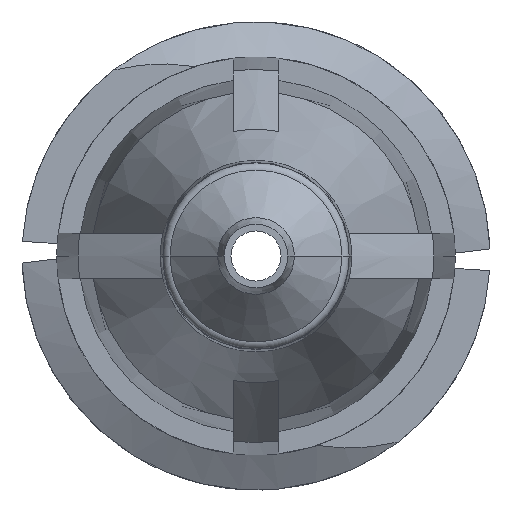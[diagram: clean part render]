
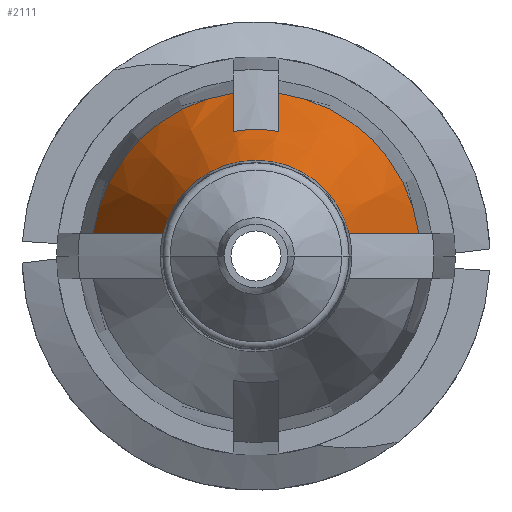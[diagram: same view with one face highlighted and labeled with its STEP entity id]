
A CAD part, front view. The second image highlights one B-rep face of the part: STEP entity #2111.
In plain terms, the highlighted conical face has half-angle 20 degrees and reference radius 2.745 mm.
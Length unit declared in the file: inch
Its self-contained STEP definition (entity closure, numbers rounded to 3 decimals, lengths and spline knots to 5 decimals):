
#172 = VERTEX_POINT ( 'NONE', #2964 ) ;
#186 = DIRECTION ( 'NONE',  ( 0., 1., 0. ) ) ;
#272 = EDGE_CURVE ( 'NONE', #1015, #3193, #1678, .T. ) ;
#331 = VERTEX_POINT ( 'NONE', #2307 ) ;
#337 = EDGE_CURVE ( 'NONE', #1781, #1015, #1165, .T. ) ;
#340 = CARTESIAN_POINT ( 'NONE',  ( 0.015, -0.406, 0.10703 ) ) ;
#375 = ORIENTED_EDGE ( 'NONE', *, *, #1803, .F. ) ;
#445 = DIRECTION ( 'NONE',  ( -1., 0., 0. ) ) ;
#455 = AXIS2_PLACEMENT_3D ( 'NONE', #991, #1215, #2494 ) ;
#458 = ORIENTED_EDGE ( 'NONE', *, *, #1011, .F. ) ;
#476 = CARTESIAN_POINT ( 'NONE',  ( -0.06119, -0.52985, 0.015 ) ) ;
#629 = AXIS2_PLACEMENT_3D ( 'NONE', #3076, #186, #744 ) ;
#643 = CARTESIAN_POINT ( 'NONE',  ( -0.10703, -0.406, 0.015 ) ) ;
#660 = CARTESIAN_POINT ( 'NONE',  ( -0.015, -0.47395, 0.08198 ) ) ;
#741 = EDGE_CURVE ( 'NONE', #1088, #2540, #1567, .T. ) ;
#744 = DIRECTION ( 'NONE',  ( -1., 0., 0. ) ) ;
#759 = DIRECTION ( 'NONE',  ( 0., 1., 0. ) ) ;
#856 = CIRCLE ( 'NONE', #2718, 0.10808 ) ;
#924 = CARTESIAN_POINT ( 'NONE',  ( 0.10703, -0.406, 0.015 ) ) ;
#942 = CARTESIAN_POINT ( 'NONE',  ( -0.015, -0.45131, 0.09036 ) ) ;
#991 = CARTESIAN_POINT ( 'NONE',  ( 0., -0.47395, 0. ) ) ;
#1011 = EDGE_CURVE ( 'NONE', #1088, #331, #1493, .T. ) ;
#1015 = VERTEX_POINT ( 'NONE', #660 ) ;
#1088 = VERTEX_POINT ( 'NONE', #2296 ) ;
#1165 = B_SPLINE_CURVE_WITH_KNOTS ( 'NONE', 3,
 ( #3016, #3338, #942, #1993 ),
 .UNSPECIFIED., .F., .F.,
 ( 4, 4 ),
 ( 0.00343, 0.00527 ),
 .UNSPECIFIED. ) ;
#1215 = DIRECTION ( 'NONE',  ( 0., 1., 0. ) ) ;
#1341 = EDGE_LOOP ( 'NONE', ( #458, #3000, #3230, #2036, #1959, #1874, #1642, #375 ) ) ;
#1369 = CARTESIAN_POINT ( 'NONE',  ( 0.015, -0.47395, 0.08198 ) ) ;
#1381 = EDGE_CURVE ( 'NONE', #2540, #2858, #1658, .T. ) ;
#1487 = DIRECTION ( 'NONE',  ( 0., 1., 0. ) ) ;
#1493 = B_SPLINE_CURVE_WITH_KNOTS ( 'NONE', 3,
 ( #476, #2313, #2034, #643 ),
 .UNSPECIFIED., .F., .F.,
 ( 4, 4 ),
 ( 0.00282, 0.00617 ),
 .UNSPECIFIED. ) ;
#1567 = CIRCLE ( 'NONE', #629, 0.063 ) ;
#1642 = ORIENTED_EDGE ( 'NONE', *, *, #337, .F. ) ;
#1658 = B_SPLINE_CURVE_WITH_KNOTS ( 'NONE', 3,
 ( #2130, #2384, #1808, #3405 ),
 .UNSPECIFIED., .F., .F.,
 ( 4, 4 ),
 ( 0.00282, 0.00617 ),
 .UNSPECIFIED. ) ;
#1678 = CIRCLE ( 'NONE', #455, 0.08335 ) ;
#1781 = VERTEX_POINT ( 'NONE', #1849 ) ;
#1802 = DIRECTION ( 'NONE',  ( -1., 0., 0. ) ) ;
#1803 = EDGE_CURVE ( 'NONE', #331, #1781, #856, .T. ) ;
#1808 = CARTESIAN_POINT ( 'NONE',  ( 0.09185, -0.44732, 0.015 ) ) ;
#1816 = DIRECTION ( 'NONE',  ( -1., 0., 0. ) ) ;
#1849 = CARTESIAN_POINT ( 'NONE',  ( -0.015, -0.406, 0.10703 ) ) ;
#1874 = ORIENTED_EDGE ( 'NONE', *, *, #272, .F. ) ;
#1930 = B_SPLINE_CURVE_WITH_KNOTS ( 'NONE', 3,
 ( #2956, #3022, #2988, #340 ),
 .UNSPECIFIED., .F., .F.,
 ( 4, 4 ),
 ( 0.00247, 0.00431 ),
 .UNSPECIFIED. ) ;
#1938 = CARTESIAN_POINT ( 'NONE',  ( 0.06119, -0.52985, 0.015 ) ) ;
#1959 = ORIENTED_EDGE ( 'NONE', *, *, #3321, .F. ) ;
#1993 = CARTESIAN_POINT ( 'NONE',  ( -0.015, -0.47395, 0.08198 ) ) ;
#2000 = CARTESIAN_POINT ( 'NONE',  ( 0., -0.406, 0. ) ) ;
#2034 = CARTESIAN_POINT ( 'NONE',  ( -0.09185, -0.44732, 0.015 ) ) ;
#2036 = ORIENTED_EDGE ( 'NONE', *, *, #3071, .F. ) ;
#2055 = CARTESIAN_POINT ( 'NONE',  ( 0., -0.406, 0. ) ) ;
#2056 = FACE_OUTER_BOUND ( 'NONE', #1341, .T. ) ;
#2072 = AXIS2_PLACEMENT_3D ( 'NONE', #2000, #759, #1816 ) ;
#2111 = ADVANCED_FACE ( 'NONE', ( #2056 ), #2770, .T. ) ;
#2130 = CARTESIAN_POINT ( 'NONE',  ( 0.06119, -0.52985, 0.015 ) ) ;
#2296 = CARTESIAN_POINT ( 'NONE',  ( -0.06119, -0.52985, 0.015 ) ) ;
#2307 = CARTESIAN_POINT ( 'NONE',  ( -0.10703, -0.406, 0.015 ) ) ;
#2313 = CARTESIAN_POINT ( 'NONE',  ( -0.07664, -0.48863, 0.015 ) ) ;
#2349 = AXIS2_PLACEMENT_3D ( 'NONE', #2526, #1487, #445 ) ;
#2384 = CARTESIAN_POINT ( 'NONE',  ( 0.07664, -0.48863, 0.015 ) ) ;
#2494 = DIRECTION ( 'NONE',  ( 1., 0., 0. ) ) ;
#2526 = CARTESIAN_POINT ( 'NONE',  ( 0., -0.406, 0. ) ) ;
#2540 = VERTEX_POINT ( 'NONE', #1938 ) ;
#2718 = AXIS2_PLACEMENT_3D ( 'NONE', #2055, #3092, #1802 ) ;
#2770 = CONICAL_SURFACE ( 'NONE', #2349, 0.10808, 0.349 ) ;
#2858 = VERTEX_POINT ( 'NONE', #924 ) ;
#2956 = CARTESIAN_POINT ( 'NONE',  ( 0.015, -0.47395, 0.08198 ) ) ;
#2964 = CARTESIAN_POINT ( 'NONE',  ( 0.015, -0.406, 0.10703 ) ) ;
#2988 = CARTESIAN_POINT ( 'NONE',  ( 0.015, -0.42866, 0.0987 ) ) ;
#2994 = CIRCLE ( 'NONE', #2072, 0.10808 ) ;
#3000 = ORIENTED_EDGE ( 'NONE', *, *, #741, .T. ) ;
#3016 = CARTESIAN_POINT ( 'NONE',  ( -0.015, -0.406, 0.10703 ) ) ;
#3022 = CARTESIAN_POINT ( 'NONE',  ( 0.015, -0.45131, 0.09036 ) ) ;
#3071 = EDGE_CURVE ( 'NONE', #172, #2858, #2994, .T. ) ;
#3076 = CARTESIAN_POINT ( 'NONE',  ( 0., -0.52985, 0. ) ) ;
#3092 = DIRECTION ( 'NONE',  ( 0., 1., 0. ) ) ;
#3193 = VERTEX_POINT ( 'NONE', #1369 ) ;
#3230 = ORIENTED_EDGE ( 'NONE', *, *, #1381, .T. ) ;
#3321 = EDGE_CURVE ( 'NONE', #3193, #172, #1930, .T. ) ;
#3338 = CARTESIAN_POINT ( 'NONE',  ( -0.015, -0.42866, 0.0987 ) ) ;
#3405 = CARTESIAN_POINT ( 'NONE',  ( 0.10703, -0.406, 0.015 ) ) ;
